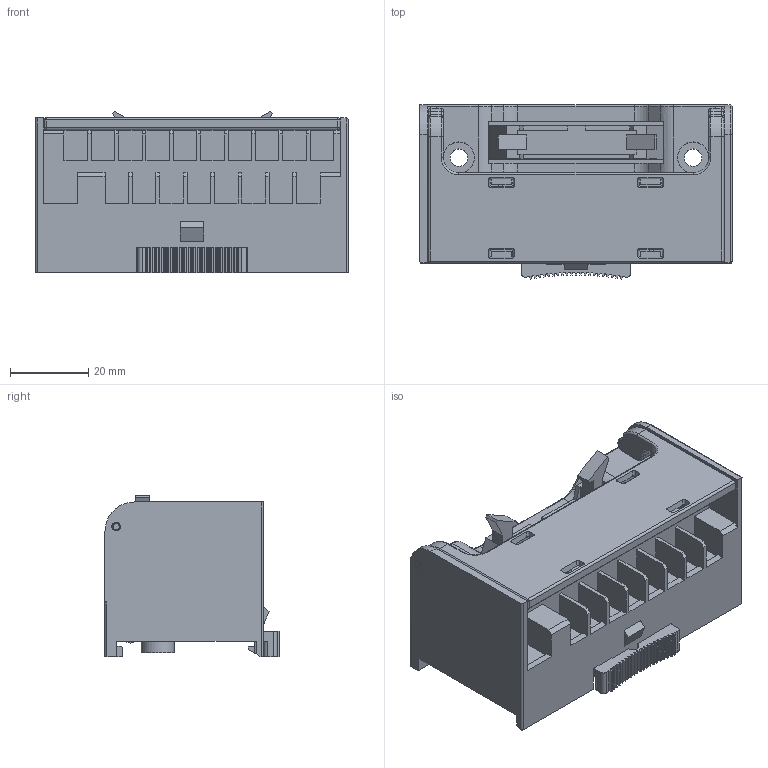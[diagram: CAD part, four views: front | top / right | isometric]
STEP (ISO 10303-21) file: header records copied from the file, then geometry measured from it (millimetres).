
FILE_DESCRIPTION(/* description */ (''),/* implementation_level */ '2;1');
FILE_NAME(/* name */ 'XTB-20H.stp',/* time_stamp */ '2017-09-04T15:11:36+09:00',/* author */ (''),/* organization */ (''),/* preprocessor_version */ 'ST-DEVELOPER v16',/* originating_system */ 'SIEMENS PLM Software NX 11.0',/* authorisation */ '');
FILE_SCHEMA (('AP203_CONFIGURATION_CONTROLLED_3D_DESIGN_OF_MECHANICAL_PARTS_AND_ASSEMBLIES_MIM_LF { 1 0 10303 403 2 1 2}'));
Length unit declared in the file: millimetre
Products named in the file (1): ksle21583784qgfp
Bounding box: 80 x 44.56 x 41.3 mm (x, y, z)
Volume: 77812 mm3; surface area: 31587.4 mm2
Topology: 1 solids, 7 shells, 627 faces, 1711 edges, 1102 vertices
Faces by surface type: plane 435, cylinder 143, torus 35, sphere 8, bspline 6
Full cylindrical faces by diameter (mm): 1.5 x2, 2 x2, 2.2 x2, 4.5 x2, 8 x2, 8.5 x2
Entity records: 24019 total; most frequent: CARTESIAN_POINT 3662, ORIENTED_EDGE 3374, DIRECTION 3241, EDGE_CURVE 1687, LINE 1337, VECTOR 1337, VERTEX_POINT 1093, AXIS2_PLACEMENT_3D 952
